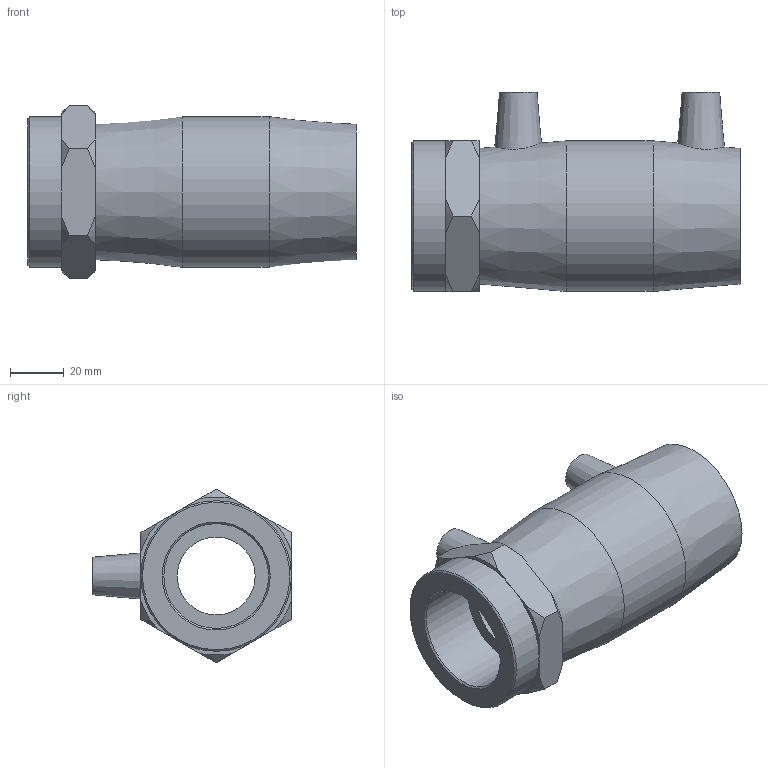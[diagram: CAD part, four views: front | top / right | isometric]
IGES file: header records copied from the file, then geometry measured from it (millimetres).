
Global section: file name: 493104040013.ipt; native system: Autodesk Inventor 2015; preprocessor: unknown; author: KIM; date: 20200202.122444; units: millimetre
Bounding box: 122 x 74 x 64.66 mm (x, y, z)
Volume: 172747 mm3; surface area: 41613.5 mm2
Topology: 1 solids, 1 shells, 54 faces, 130 edges, 86 vertices
Faces by surface type: plane 24, cone 17, revolution 9, cylinder 4
Full cylindrical faces by diameter (mm): 4 x2, 56 x2
